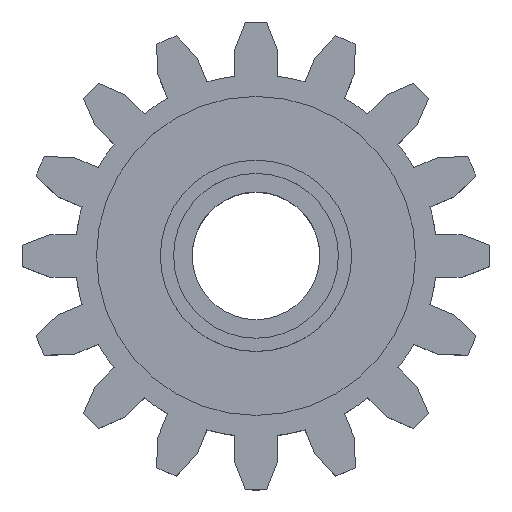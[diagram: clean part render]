
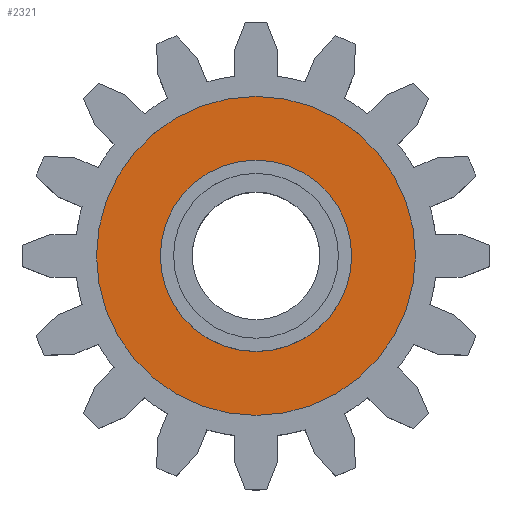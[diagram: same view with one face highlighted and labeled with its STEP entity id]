
A CAD part, top view. The second image highlights one B-rep face of the part: STEP entity #2321.
In plain terms, the highlighted planar face has unit normal (0, 0, 1).
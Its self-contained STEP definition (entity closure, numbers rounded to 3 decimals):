
#592=ORIENTED_EDGE('',*,*,#1287,.T.);
#593=ORIENTED_EDGE('',*,*,#1286,.F.);
#1286=EDGE_CURVE('',#1634,#1634,#1858,.T.);
#1287=EDGE_CURVE('',#1635,#1635,#1859,.T.);
#1634=VERTEX_POINT('',#3396);
#1635=VERTEX_POINT('',#3399);
#1858=CIRCLE('',#2467,3.6);
#1859=CIRCLE('',#2469,6.);
#1941=EDGE_LOOP('',(#592));
#1942=EDGE_LOOP('',(#593));
#2081=FACE_BOUND('',#1941,.T.);
#2082=FACE_BOUND('',#1942,.T.);
#2217=PLANE('',#2468);
#2321=ADVANCED_FACE('',(#2081,#2082),#2217,.T.);
#2467=AXIS2_PLACEMENT_3D('',#3395,#2701,#2702);
#2468=AXIS2_PLACEMENT_3D('',#3397,#2703,#2704);
#2469=AXIS2_PLACEMENT_3D('',#3398,#2705,#2706);
#2701=DIRECTION('',(0.,0.,1.));
#2702=DIRECTION('',(1.,0.,0.));
#2703=DIRECTION('',(0.,0.,1.));
#2704=DIRECTION('',(1.,0.,0.));
#2705=DIRECTION('',(0.,0.,1.));
#2706=DIRECTION('',(1.,0.,0.));
#3395=CARTESIAN_POINT('',(0.,0.,5.6));
#3396=CARTESIAN_POINT('',(3.6,0.,5.6));
#3397=CARTESIAN_POINT('',(3.6,0.,5.6));
#3398=CARTESIAN_POINT('',(0.,0.,5.6));
#3399=CARTESIAN_POINT('',(6.,0.,5.6));
